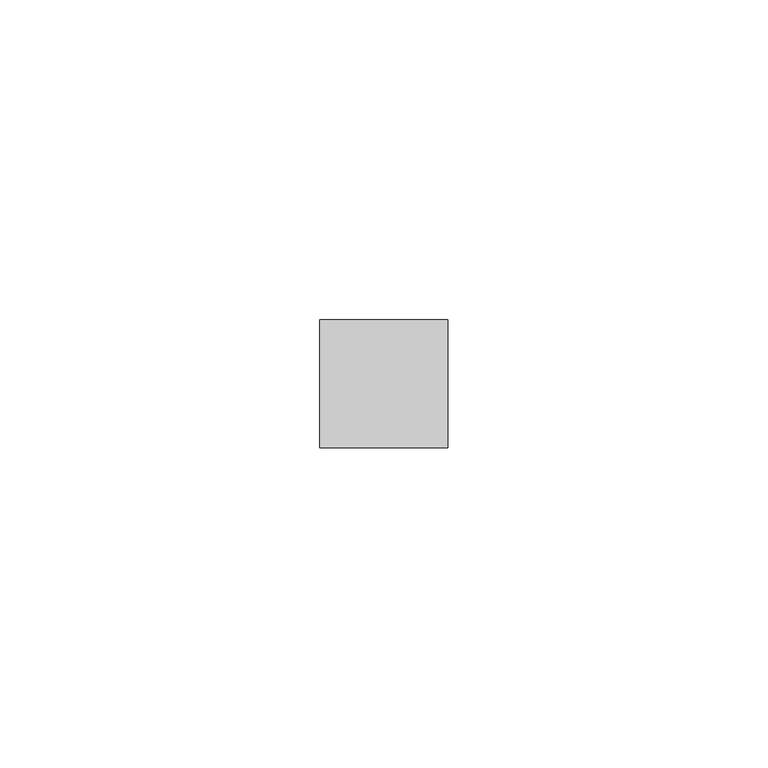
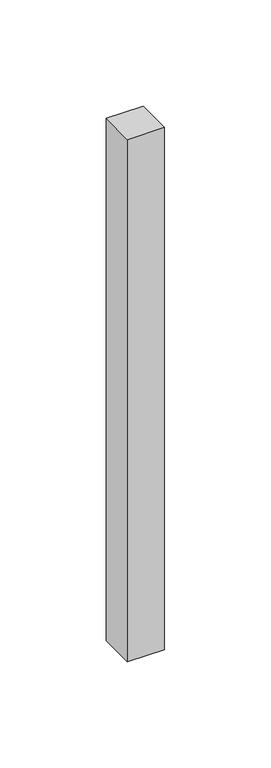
"""IFC4 building model written with IfcOpenShell, lengths in millimetres: member geometry, 矩形竖梃 : 20mm 正方形."""

from ifc_helpers import new_model, si_unit, frame, origin, place, context, project, spatial, polyline, outline, extrude, source, transform, mapped, element, save


def member_6c794b56(model_context):
    return source(origin(), model_context, "Body", "SweptSolid", [
        extrude(outline(polyline([(0.0, 10.0), (0.0, -10.0), (-20.0, -10.0), (-20.0, 10.0), (0.0, 10.0)])), frame((0.0, 0.0, -300.0), z_axis=(0.0, 0.0, 1.0), x_axis=(1.0, 0.0, 0.0)), (0.0, 0.0, 1.0), 300.0),
    ])


if __name__ == "__main__":
    model = new_model("IFC4")
    model_context = context("Model", 3, world=origin())
    ifc_project = project(units=[si_unit("LENGTHUNIT", "METRE", prefix="MILLI")], contexts=[model_context])
    site = spatial("IfcSite", under=ifc_project)
    building = spatial("IfcBuilding", under=site)
    placement = place(None, origin())
    member_shape = member_6c794b56(model_context)
    element("IfcMember", 1, ObjectType="矩形竖梃 : 20mm 正方形", at=placement, inside=building, context=model_context, shape_type="MappedRepresentation", body=[
        mapped(member_shape, transform((0.0, 0.0, 0.0), x_axis=(1.0, 0.0, 0.0), y_axis=(0.0, 1.0, 0.0), z_axis=(0.0, 0.0, 1.0))),
    ])
    save(model, "model.ifc")
